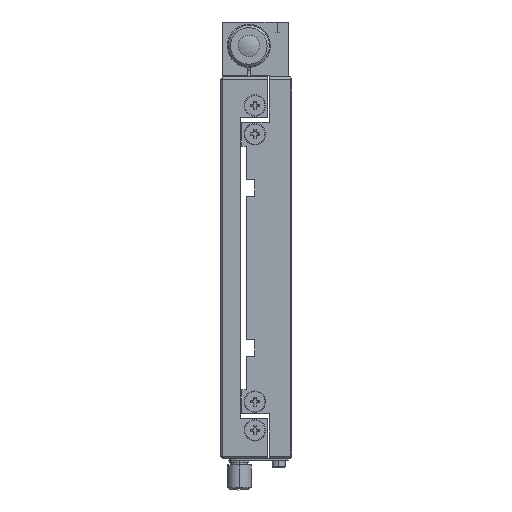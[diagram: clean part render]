
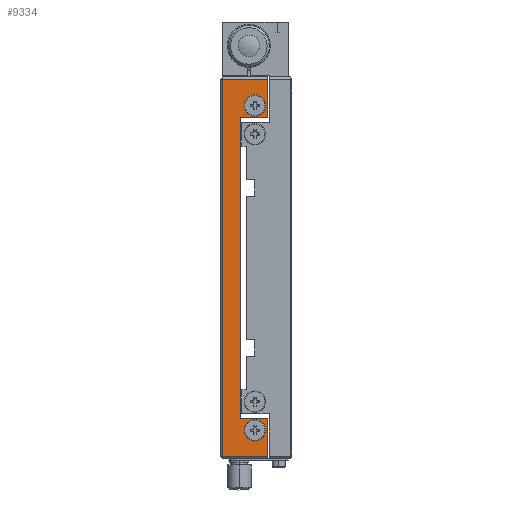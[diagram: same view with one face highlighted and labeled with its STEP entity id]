
A CAD part, left-side view. The second image highlights one B-rep face of the part: STEP entity #9334.
In plain terms, the highlighted planar face has unit normal (-1, 0, 0) as drawn and (0, 0, -1) by its records, which use the part's own axes.
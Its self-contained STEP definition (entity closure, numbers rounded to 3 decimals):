
#831 = DIRECTION ( 'NONE',  ( 0., 1., 0. ) ) ;
#1209 = PLANE ( 'NONE',  #14364 ) ;
#1278 = LINE ( 'NONE', #9395, #26171 ) ;
#1351 = EDGE_LOOP ( 'NONE', ( #12521, #4063, #14371, #11792, #8069, #18664, #6935, #15585 ) ) ;
#1409 = CARTESIAN_POINT ( 'NONE',  ( 77.386, 21.827, -80. ) ) ;
#1427 = VERTEX_POINT ( 'NONE', #14666 ) ;
#1662 = VERTEX_POINT ( 'NONE', #7771 ) ;
#1690 = CARTESIAN_POINT ( 'NONE',  ( -81.614, 21.827, -80. ) ) ;
#1890 = VECTOR ( 'NONE', #20808, 1000. ) ;
#1994 = CIRCLE ( 'NONE', #17798, 4.2 ) ;
#2128 = VECTOR ( 'NONE', #13186, 1000. ) ;
#2313 = CARTESIAN_POINT ( 'NONE',  ( 77.386, 41.827, -80. ) ) ;
#2491 = AXIS2_PLACEMENT_3D ( 'NONE', #22398, #20330, #26929 ) ;
#2645 = DIRECTION ( 'NONE',  ( -1., 0., 0. ) ) ;
#2796 = CARTESIAN_POINT ( 'NONE',  ( -81.614, 21.827, -80. ) ) ;
#3416 = EDGE_CURVE ( 'NONE', #17238, #20636, #7227, .T. ) ;
#3980 = DIRECTION ( 'NONE',  ( 0., -1., 0. ) ) ;
#4005 = VERTEX_POINT ( 'NONE', #18850 ) ;
#4051 = CARTESIAN_POINT ( 'NONE',  ( 62.186, 27.327, -80. ) ) ;
#4063 = ORIENTED_EDGE ( 'NONE', *, *, #17548, .F. ) ;
#4221 = EDGE_CURVE ( 'NONE', #17876, #27071, #9732, .T. ) ;
#4233 = CIRCLE ( 'NONE', #18277, 4.2 ) ;
#5338 = DIRECTION ( 'NONE',  ( 1., 0., 0. ) ) ;
#5584 = EDGE_CURVE ( 'NONE', #17876, #1427, #18679, .T. ) ;
#5622 = CARTESIAN_POINT ( 'NONE',  ( -64.614, 33.327, -80. ) ) ;
#6641 = VECTOR ( 'NONE', #19802, 1000. ) ;
#6756 = CARTESIAN_POINT ( 'NONE',  ( 77.386, 40.827, -80. ) ) ;
#6915 = ORIENTED_EDGE ( 'NONE', *, *, #9429, .F. ) ;
#6935 = ORIENTED_EDGE ( 'NONE', *, *, #9785, .F. ) ;
#7175 = VECTOR ( 'NONE', #831, 1000. ) ;
#7227 = LINE ( 'NONE', #9164, #26395 ) ;
#7261 = DIRECTION ( 'NONE',  ( 0., 0., -1. ) ) ;
#7327 = EDGE_LOOP ( 'NONE', ( #13482, #6915 ) ) ;
#7771 = CARTESIAN_POINT ( 'NONE',  ( -65.414, 27.327, -80. ) ) ;
#8069 = ORIENTED_EDGE ( 'NONE', *, *, #17816, .F. ) ;
#8155 = LINE ( 'NONE', #1690, #1890 ) ;
#9164 = CARTESIAN_POINT ( 'NONE',  ( 78.386, 40.827, -80. ) ) ;
#9321 = FACE_BOUND ( 'NONE', #21246, .T. ) ;
#9334 = ADVANCED_FACE ( 'NONE', ( #21998, #25849, #9321 ), #1209, .F. ) ;
#9395 = CARTESIAN_POINT ( 'NONE',  ( -80.614, 41.827, -80. ) ) ;
#9429 = EDGE_CURVE ( 'NONE', #17241, #22826, #15683, .T. ) ;
#9467 = EDGE_CURVE ( 'NONE', #22826, #17241, #26218, .T. ) ;
#9732 = LINE ( 'NONE', #5622, #6641 ) ;
#9785 = EDGE_CURVE ( 'NONE', #17238, #16942, #1278, .T. ) ;
#10768 = DIRECTION ( 'NONE',  ( 1., 0., 0. ) ) ;
#10966 = VERTEX_POINT ( 'NONE', #1409 ) ;
#11393 = CARTESIAN_POINT ( 'NONE',  ( -81.614, 41.827, -80. ) ) ;
#11792 = ORIENTED_EDGE ( 'NONE', *, *, #4221, .T. ) ;
#12521 = ORIENTED_EDGE ( 'NONE', *, *, #24829, .F. ) ;
#13186 = DIRECTION ( 'NONE',  ( 0., 1., 0. ) ) ;
#13317 = CARTESIAN_POINT ( 'NONE',  ( 66.386, 27.327, -80. ) ) ;
#13482 = ORIENTED_EDGE ( 'NONE', *, *, #9467, .F. ) ;
#13683 = CARTESIAN_POINT ( 'NONE',  ( -69.614, 27.327, -80. ) ) ;
#14364 = AXIS2_PLACEMENT_3D ( 'NONE', #11393, #15805, #5338 ) ;
#14371 = ORIENTED_EDGE ( 'NONE', *, *, #5584, .F. ) ;
#14666 = CARTESIAN_POINT ( 'NONE',  ( 61.386, 21.827, -80. ) ) ;
#14670 = CARTESIAN_POINT ( 'NONE',  ( -80.614, 40.827, -80. ) ) ;
#15160 = CARTESIAN_POINT ( 'NONE',  ( -69.614, 27.327, -80. ) ) ;
#15585 = ORIENTED_EDGE ( 'NONE', *, *, #3416, .T. ) ;
#15618 = DIRECTION ( 'NONE',  ( 0., 0., -1. ) ) ;
#15683 = CIRCLE ( 'NONE', #17010, 4.2 ) ;
#15805 = DIRECTION ( 'NONE',  ( 0., 0., 1. ) ) ;
#16537 = EDGE_CURVE ( 'NONE', #16942, #4005, #26041, .T. ) ;
#16942 = VERTEX_POINT ( 'NONE', #19283 ) ;
#17010 = AXIS2_PLACEMENT_3D ( 'NONE', #13317, #7261, #17455 ) ;
#17238 = VERTEX_POINT ( 'NONE', #14670 ) ;
#17241 = VERTEX_POINT ( 'NONE', #18933 ) ;
#17455 = DIRECTION ( 'NONE',  ( -1., 0., 0. ) ) ;
#17548 = EDGE_CURVE ( 'NONE', #1427, #10966, #8155, .T. ) ;
#17749 = LINE ( 'NONE', #24231, #7175 ) ;
#17786 = DIRECTION ( 'NONE',  ( 0., -1., 0. ) ) ;
#17798 = AXIS2_PLACEMENT_3D ( 'NONE', #15160, #19425, #2645 ) ;
#17816 = EDGE_CURVE ( 'NONE', #4005, #27071, #17749, .T. ) ;
#17876 = VERTEX_POINT ( 'NONE', #21756 ) ;
#17940 = CARTESIAN_POINT ( 'NONE',  ( -64.614, 33.327, -80. ) ) ;
#18277 = AXIS2_PLACEMENT_3D ( 'NONE', #13683, #15618, #22347 ) ;
#18486 = ORIENTED_EDGE ( 'NONE', *, *, #20637, .F. ) ;
#18664 = ORIENTED_EDGE ( 'NONE', *, *, #16537, .F. ) ;
#18679 = LINE ( 'NONE', #22823, #20324 ) ;
#18850 = CARTESIAN_POINT ( 'NONE',  ( -64.614, 21.827, -80. ) ) ;
#18933 = CARTESIAN_POINT ( 'NONE',  ( 70.586, 27.327, -80. ) ) ;
#19283 = CARTESIAN_POINT ( 'NONE',  ( -80.614, 21.827, -80. ) ) ;
#19425 = DIRECTION ( 'NONE',  ( 0., 0., -1. ) ) ;
#19433 = CARTESIAN_POINT ( 'NONE',  ( -73.814, 27.327, -80. ) ) ;
#19802 = DIRECTION ( 'NONE',  ( -1., 0., 0. ) ) ;
#20169 = ORIENTED_EDGE ( 'NONE', *, *, #21427, .F. ) ;
#20324 = VECTOR ( 'NONE', #3980, 1000. ) ;
#20330 = DIRECTION ( 'NONE',  ( 0., 0., -1. ) ) ;
#20636 = VERTEX_POINT ( 'NONE', #6756 ) ;
#20637 = EDGE_CURVE ( 'NONE', #21733, #1662, #1994, .T. ) ;
#20808 = DIRECTION ( 'NONE',  ( 1., 0., 0. ) ) ;
#21246 = EDGE_LOOP ( 'NONE', ( #18486, #20169 ) ) ;
#21427 = EDGE_CURVE ( 'NONE', #1662, #21733, #4233, .T. ) ;
#21680 = DIRECTION ( 'NONE',  ( 1., 0., 0. ) ) ;
#21733 = VERTEX_POINT ( 'NONE', #19433 ) ;
#21756 = CARTESIAN_POINT ( 'NONE',  ( 61.386, 33.327, -80. ) ) ;
#21998 = FACE_OUTER_BOUND ( 'NONE', #1351, .T. ) ;
#22347 = DIRECTION ( 'NONE',  ( -1., 0., 0. ) ) ;
#22398 = CARTESIAN_POINT ( 'NONE',  ( 66.386, 27.327, -80. ) ) ;
#22823 = CARTESIAN_POINT ( 'NONE',  ( 61.386, 41.827, -80. ) ) ;
#22826 = VERTEX_POINT ( 'NONE', #4051 ) ;
#23364 = LINE ( 'NONE', #2313, #2128 ) ;
#24231 = CARTESIAN_POINT ( 'NONE',  ( -64.614, 41.827, -80. ) ) ;
#24829 = EDGE_CURVE ( 'NONE', #10966, #20636, #23364, .T. ) ;
#25773 = VECTOR ( 'NONE', #10768, 1000. ) ;
#25849 = FACE_BOUND ( 'NONE', #7327, .T. ) ;
#26041 = LINE ( 'NONE', #2796, #25773 ) ;
#26171 = VECTOR ( 'NONE', #17786, 1000. ) ;
#26218 = CIRCLE ( 'NONE', #2491, 4.2 ) ;
#26395 = VECTOR ( 'NONE', #21680, 1000. ) ;
#26929 = DIRECTION ( 'NONE',  ( -1., 0., 0. ) ) ;
#27071 = VERTEX_POINT ( 'NONE', #17940 ) ;
